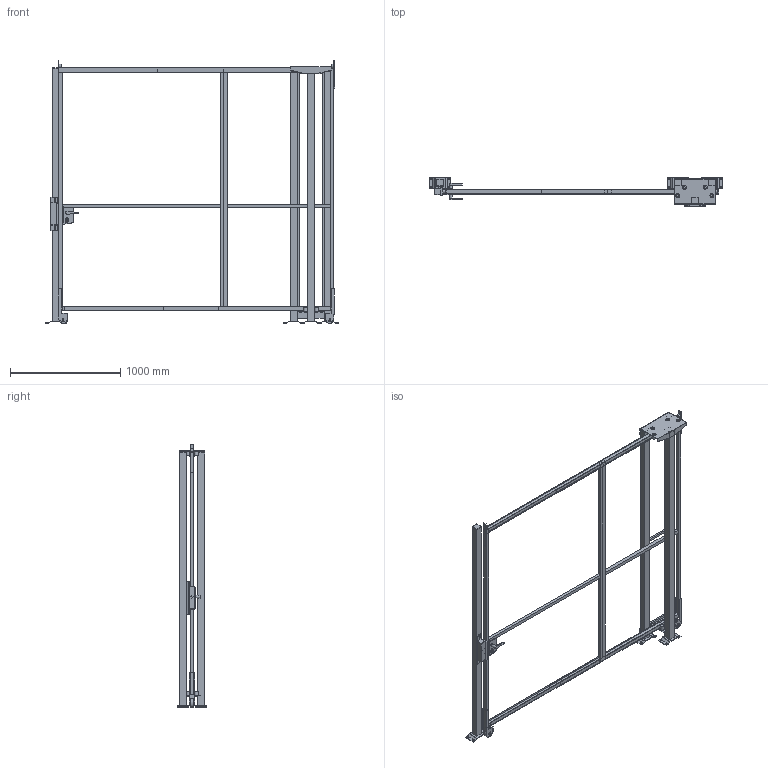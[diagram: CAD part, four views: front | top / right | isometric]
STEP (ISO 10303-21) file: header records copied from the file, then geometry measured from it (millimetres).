
FILE_DESCRIPTION(/* description */ (''),/* implementation_level */ '2;1');
FILE_NAME(/* name */ 'C:\SafeGuarding\ELABORATI\KLADKOUGAMMA_2025-03-21-09-53-18.stp',/* time_stamp */ '2025-03-21T09:53:22+01:00',/* author */ ('admin'),/* organization */ (''),/* preprocessor_version */ 'ST-DEVELOPER v18.1',/* originating_system */ 'AutoCAD Mechanical',/* authorisation */ '');
FILE_SCHEMA (('AUTOMOTIVE_DESIGN { 1 0 10303 214 3 1 1 }'));
Length unit declared in the file: millimetre
Products named in the file (5): Product; R_VFPA.REPE30.10002200; R_VFPA.REPE30.15002200; R_VFPA.REPE20.02502200; P_VFMA.V260SDU.2320
Assembly tree (7 placements, depth 2):
  Product
    R_VFPA.REPE30.10002200
    R_VFPA.REPE30.15002200
    P_VFMA.V260SDU.2320  x4
    R_VFPA.REPE20.02502200
Bounding box: 2661.92 x 264 x 2390.02 mm (x, y, z)
Volume: 54313157.4 mm3; surface area: 7044288.9 mm2
Topology: 67 solids, 67 shells, 602 faces, 1751 edges, 1734 vertices
Faces by surface type: plane 524, cylinder 74, bspline 4
Full cylindrical faces by diameter (mm): 9 x4, 11 x16, 13 x4, 18 x1, 25 x2, 25.398 x2, 30 x6, 36 x8, 80 x2
Entity records: 18129 total; most frequent: CARTESIAN_POINT 4727, DIRECTION 2671, ORIENTED_EDGE 2350, LINE 1231, VECTOR 1231, EDGE_CURVE 1175, VERTEX_POINT 790, AXIS2_PLACEMENT_3D 720
